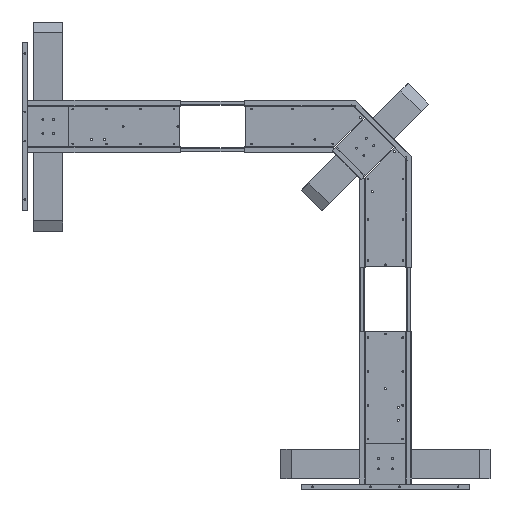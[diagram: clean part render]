
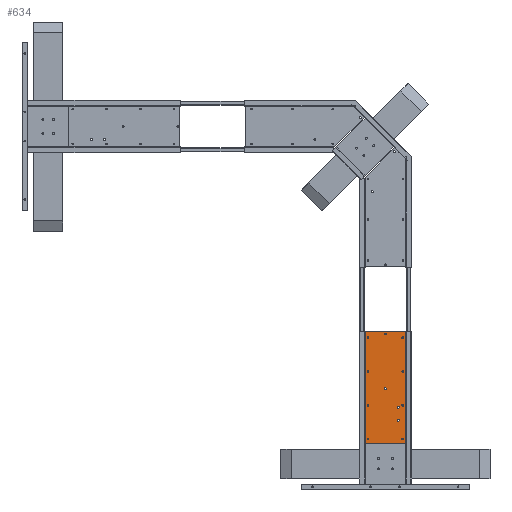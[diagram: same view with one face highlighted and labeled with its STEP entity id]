
A CAD part, top view. The second image highlights one B-rep face of the part: STEP entity #634.
In plain terms, the highlighted planar face has unit normal (0, 0, 1).
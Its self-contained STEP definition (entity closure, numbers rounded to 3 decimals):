
#634 = ADVANCED_FACE( '', ( #1459, #1460, #1461, #1462, #1463, #1464, #1465, #1466, #1467, #1468, #1469, #1470, #1471 ), #1472, .F. );
#1459 = FACE_BOUND( '', #2791, .T. );
#1460 = FACE_BOUND( '', #2792, .T. );
#1461 = FACE_BOUND( '', #2793, .T. );
#1462 = FACE_BOUND( '', #2794, .T. );
#1463 = FACE_BOUND( '', #2795, .T. );
#1464 = FACE_BOUND( '', #2796, .T. );
#1465 = FACE_OUTER_BOUND( '', #2797, .T. );
#1466 = FACE_BOUND( '', #2798, .T. );
#1467 = FACE_BOUND( '', #2799, .T. );
#1468 = FACE_BOUND( '', #2800, .T. );
#1469 = FACE_BOUND( '', #2801, .T. );
#1470 = FACE_BOUND( '', #2802, .T. );
#1471 = FACE_BOUND( '', #2803, .T. );
#1472 = PLANE( '', #2804 );
#2791 = EDGE_LOOP( '', ( #4389 ) );
#2792 = EDGE_LOOP( '', ( #4390 ) );
#2793 = EDGE_LOOP( '', ( #4391 ) );
#2794 = EDGE_LOOP( '', ( #4392 ) );
#2795 = EDGE_LOOP( '', ( #4393 ) );
#2796 = EDGE_LOOP( '', ( #4394 ) );
#2797 = EDGE_LOOP( '', ( #4395, #4396, #4397, #4398 ) );
#2798 = EDGE_LOOP( '', ( #4399 ) );
#2799 = EDGE_LOOP( '', ( #4400 ) );
#2800 = EDGE_LOOP( '', ( #4401 ) );
#2801 = EDGE_LOOP( '', ( #4402 ) );
#2802 = EDGE_LOOP( '', ( #4403 ) );
#2803 = EDGE_LOOP( '', ( #4404 ) );
#2804 = AXIS2_PLACEMENT_3D( '', #4405, #4406, #4407 );
#4389 = ORIENTED_EDGE( '', *, *, #6915, .F. );
#4390 = ORIENTED_EDGE( '', *, *, #6796, .F. );
#4391 = ORIENTED_EDGE( '', *, *, #6916, .F. );
#4392 = ORIENTED_EDGE( '', *, *, #6917, .F. );
#4393 = ORIENTED_EDGE( '', *, *, #6918, .F. );
#4394 = ORIENTED_EDGE( '', *, *, #6763, .F. );
#4395 = ORIENTED_EDGE( '', *, *, #6919, .T. );
#4396 = ORIENTED_EDGE( '', *, *, #6920, .F. );
#4397 = ORIENTED_EDGE( '', *, *, #6619, .F. );
#4398 = ORIENTED_EDGE( '', *, *, #6921, .T. );
#4399 = ORIENTED_EDGE( '', *, *, #6922, .F. );
#4400 = ORIENTED_EDGE( '', *, *, #6923, .F. );
#4401 = ORIENTED_EDGE( '', *, *, #6924, .F. );
#4402 = ORIENTED_EDGE( '', *, *, #6721, .F. );
#4403 = ORIENTED_EDGE( '', *, *, #6925, .F. );
#4404 = ORIENTED_EDGE( '', *, *, #6926, .F. );
#4405 = CARTESIAN_POINT( '', ( 150., 120., 39.5 ) );
#4406 = DIRECTION( '', ( 0., 0., -1. ) );
#4407 = DIRECTION( '', ( -1., 0., 0. ) );
#6619 = EDGE_CURVE( '', #7689, #7691, #7692, .T. );
#6721 = EDGE_CURVE( '', #7881, #7881, #7882, .F. );
#6763 = EDGE_CURVE( '', #7952, #7952, #7953, .F. );
#6796 = EDGE_CURVE( '', #8012, #8012, #8013, .F. );
#6915 = EDGE_CURVE( '', #8207, #8207, #8208, .F. );
#6916 = EDGE_CURVE( '', #8209, #8209, #8210, .F. );
#6917 = EDGE_CURVE( '', #8211, #8211, #8212, .F. );
#6918 = EDGE_CURVE( '', #8213, #8213, #8214, .F. );
#6919 = EDGE_CURVE( '', #8215, #8216, #8217, .T. );
#6920 = EDGE_CURVE( '', #7691, #8216, #8218, .T. );
#6921 = EDGE_CURVE( '', #7689, #8215, #8219, .T. );
#6922 = EDGE_CURVE( '', #8220, #8220, #8221, .F. );
#6923 = EDGE_CURVE( '', #8222, #8222, #8223, .F. );
#6924 = EDGE_CURVE( '', #8224, #8224, #8225, .F. );
#6925 = EDGE_CURVE( '', #8226, #8226, #8227, .F. );
#6926 = EDGE_CURVE( '', #8228, #8228, #8229, .F. );
#7689 = VERTEX_POINT( '', #9331 );
#7691 = VERTEX_POINT( '', #9334 );
#7692 = LINE( '', #9335, #9336 );
#7881 = VERTEX_POINT( '', #9580 );
#7882 = CIRCLE( '', #9581, 3. );
#7952 = VERTEX_POINT( '', #9668 );
#7953 = CIRCLE( '', #9669, 3.25 );
#8012 = VERTEX_POINT( '', #9751 );
#8013 = CIRCLE( '', #9752, 3. );
#8207 = VERTEX_POINT( '', #10019 );
#8208 = CIRCLE( '', #10020, 3. );
#8209 = VERTEX_POINT( '', #10021 );
#8210 = CIRCLE( '', #10022, 3. );
#8211 = VERTEX_POINT( '', #10023 );
#8212 = CIRCLE( '', #10024, 3. );
#8213 = VERTEX_POINT( '', #10025 );
#8214 = CIRCLE( '', #10026, 3.25 );
#8215 = VERTEX_POINT( '', #10027 );
#8216 = VERTEX_POINT( '', #10028 );
#8217 = LINE( '', #10029, #10030 );
#8218 = LINE( '', #10031, #10032 );
#8219 = LINE( '', #10033, #10034 );
#8220 = VERTEX_POINT( '', #10035 );
#8221 = CIRCLE( '', #10036, 3.25 );
#8222 = VERTEX_POINT( '', #10037 );
#8223 = CIRCLE( '', #10038, 3.25 );
#8224 = VERTEX_POINT( '', #10039 );
#8225 = CIRCLE( '', #10040, 3. );
#8226 = VERTEX_POINT( '', #10041 );
#8227 = CIRCLE( '', #10042, 3. );
#8228 = VERTEX_POINT( '', #10043 );
#8229 = CIRCLE( '', #10044, 3. );
#9331 = CARTESIAN_POINT( '', ( 150., 120., 39.5 ) );
#9334 = CARTESIAN_POINT( '', ( 533., 120., 39.5 ) );
#9335 = CARTESIAN_POINT( '', ( 150., 120., 39.5 ) );
#9336 = VECTOR( '', #11460, 1000. );
#9580 = CARTESIAN_POINT( '', ( 162., 110., 39.5 ) );
#9581 = AXIS2_PLACEMENT_3D( '', #11615, #11616, #11617 );
#9668 = CARTESIAN_POINT( '', ( 522.75, 50., 39.5 ) );
#9669 = AXIS2_PLACEMENT_3D( '', #11671, #11672, #11673 );
#9751 = CARTESIAN_POINT( '', ( 162., -10., 39.5 ) );
#9752 = AXIS2_PLACEMENT_3D( '', #11709, #11710, #11711 );
#10019 = CARTESIAN_POINT( '', ( 394., -10., 39.5 ) );
#10020 = AXIS2_PLACEMENT_3D( '', #11836, #11837, #11838 );
#10021 = CARTESIAN_POINT( '', ( 278., 110., 39.5 ) );
#10022 = AXIS2_PLACEMENT_3D( '', #11839, #11840, #11841 );
#10023 = CARTESIAN_POINT( '', ( 510., 110., 39.5 ) );
#10024 = AXIS2_PLACEMENT_3D( '', #11842, #11843, #11844 );
#10025 = CARTESIAN_POINT( '', ( 270.85, 5., 39.5 ) );
#10026 = AXIS2_PLACEMENT_3D( '', #11845, #11846, #11847 );
#10027 = CARTESIAN_POINT( '', ( 150., -20., 39.5 ) );
#10028 = CARTESIAN_POINT( '', ( 533., -20., 39.5 ) );
#10029 = CARTESIAN_POINT( '', ( 150., -20., 39.5 ) );
#10030 = VECTOR( '', #11848, 1000. );
#10031 = CARTESIAN_POINT( '', ( 533., 120., 39.5 ) );
#10032 = VECTOR( '', #11849, 1000. );
#10033 = CARTESIAN_POINT( '', ( 150., 120., 39.5 ) );
#10034 = VECTOR( '', #11850, 1000. );
#10035 = CARTESIAN_POINT( '', ( 225.85, 5., 39.5 ) );
#10036 = AXIS2_PLACEMENT_3D( '', #11851, #11852, #11853 );
#10037 = CARTESIAN_POINT( '', ( 334.75, 50., 39.5 ) );
#10038 = AXIS2_PLACEMENT_3D( '', #11854, #11855, #11856 );
#10039 = CARTESIAN_POINT( '', ( 394., 110., 39.5 ) );
#10040 = AXIS2_PLACEMENT_3D( '', #11857, #11858, #11859 );
#10041 = CARTESIAN_POINT( '', ( 278., -10., 39.5 ) );
#10042 = AXIS2_PLACEMENT_3D( '', #11860, #11861, #11862 );
#10043 = CARTESIAN_POINT( '', ( 510., -10., 39.5 ) );
#10044 = AXIS2_PLACEMENT_3D( '', #11863, #11864, #11865 );
#11460 = DIRECTION( '', ( 1., 0., 0. ) );
#11615 = CARTESIAN_POINT( '', ( 165., 110., 39.5 ) );
#11616 = DIRECTION( '', ( 0., 0., -1. ) );
#11617 = DIRECTION( '', ( -1., 0., 0. ) );
#11671 = CARTESIAN_POINT( '', ( 526., 50., 39.5 ) );
#11672 = DIRECTION( '', ( 0., 0., -1. ) );
#11673 = DIRECTION( '', ( -1., 0., 0. ) );
#11709 = CARTESIAN_POINT( '', ( 165., -10., 39.5 ) );
#11710 = DIRECTION( '', ( 0., 0., -1. ) );
#11711 = DIRECTION( '', ( -1., 0., 0. ) );
#11836 = CARTESIAN_POINT( '', ( 397., -10., 39.5 ) );
#11837 = DIRECTION( '', ( 0., 0., -1. ) );
#11838 = DIRECTION( '', ( -1., 0., 0. ) );
#11839 = CARTESIAN_POINT( '', ( 281., 110., 39.5 ) );
#11840 = DIRECTION( '', ( 0., 0., -1. ) );
#11841 = DIRECTION( '', ( -1., 0., 0. ) );
#11842 = CARTESIAN_POINT( '', ( 513., 110., 39.5 ) );
#11843 = DIRECTION( '', ( 0., 0., -1. ) );
#11844 = DIRECTION( '', ( -1., 0., 0. ) );
#11845 = CARTESIAN_POINT( '', ( 274.1, 5., 39.5 ) );
#11846 = DIRECTION( '', ( 0., 0., -1. ) );
#11847 = DIRECTION( '', ( -1., 0., 0. ) );
#11848 = DIRECTION( '', ( 1., 0., 0. ) );
#11849 = DIRECTION( '', ( 0., -1., 0. ) );
#11850 = DIRECTION( '', ( 0., -1., 0. ) );
#11851 = CARTESIAN_POINT( '', ( 229.1, 5., 39.5 ) );
#11852 = DIRECTION( '', ( 0., 0., -1. ) );
#11853 = DIRECTION( '', ( -1., 0., 0. ) );
#11854 = CARTESIAN_POINT( '', ( 338., 50., 39.5 ) );
#11855 = DIRECTION( '', ( 0., 0., -1. ) );
#11856 = DIRECTION( '', ( -1., 0., 0. ) );
#11857 = CARTESIAN_POINT( '', ( 397., 110., 39.5 ) );
#11858 = DIRECTION( '', ( 0., 0., -1. ) );
#11859 = DIRECTION( '', ( -1., 0., 0. ) );
#11860 = CARTESIAN_POINT( '', ( 281., -10., 39.5 ) );
#11861 = DIRECTION( '', ( 0., 0., -1. ) );
#11862 = DIRECTION( '', ( -1., 0., 0. ) );
#11863 = CARTESIAN_POINT( '', ( 513., -10., 39.5 ) );
#11864 = DIRECTION( '', ( 0., 0., -1. ) );
#11865 = DIRECTION( '', ( -1., 0., 0. ) );
